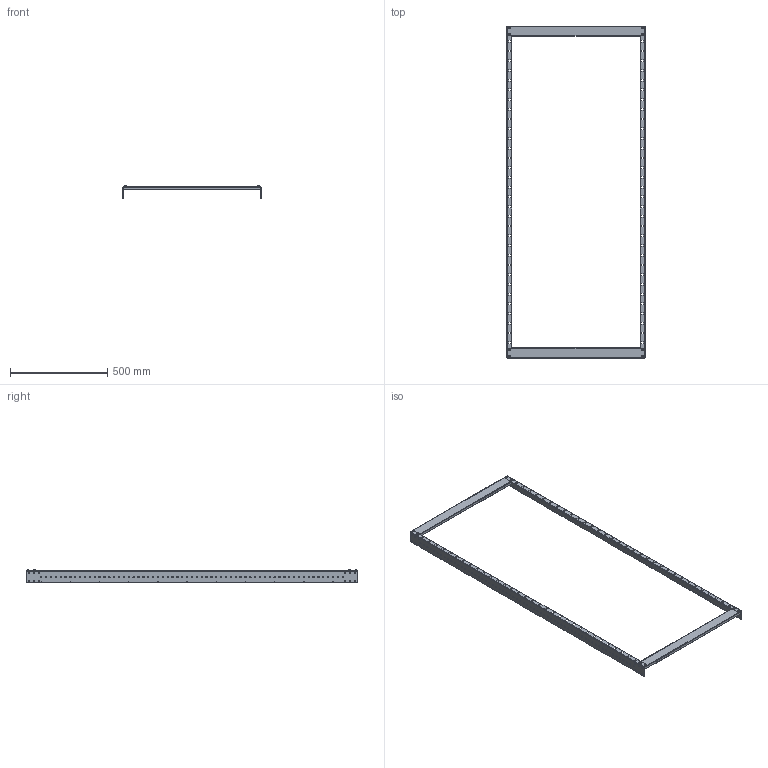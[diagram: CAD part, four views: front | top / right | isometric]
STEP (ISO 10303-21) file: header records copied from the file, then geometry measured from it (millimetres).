
FILE_DESCRIPTION (( 'STEP AP214' ), '1' );
FILE_NAME ('RMD 180.80.STEP', '2024-06-26T13:42:06', ( '' ), ( '' ), 'SwSTEP 2.0', 'SolidWorks 2019', '' );
FILE_SCHEMA (( 'AUTOMOTIVE_DESIGN' ));
Length unit declared in the file: millimetre
Products named in the file (1): RMD 180.80
Bounding box: 712 x 1707 x 63.2 mm (x, y, z)
Volume: 652355.1 mm3; surface area: 770495.2 mm2
Topology: 12 solids, 12 shells, 1026 faces, 2922 edges, 1920 vertices
Faces by surface type: cylinder 494, plane 460, cone 40, bspline 32
Entity records: 50249 total; most frequent: CARTESIAN_POINT 11421, ORIENTED_EDGE 5812, DIRECTION 5396, EDGE_CURVE 2906, VERTEX_POINT 1920, AXIS2_PLACEMENT_3D 1847, LINE 1702, VECTOR 1702
